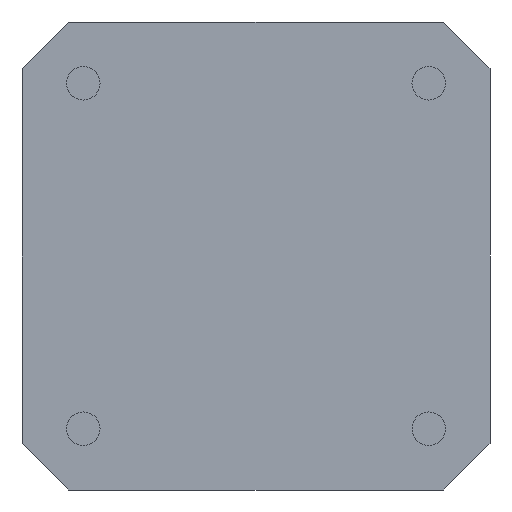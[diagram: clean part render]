
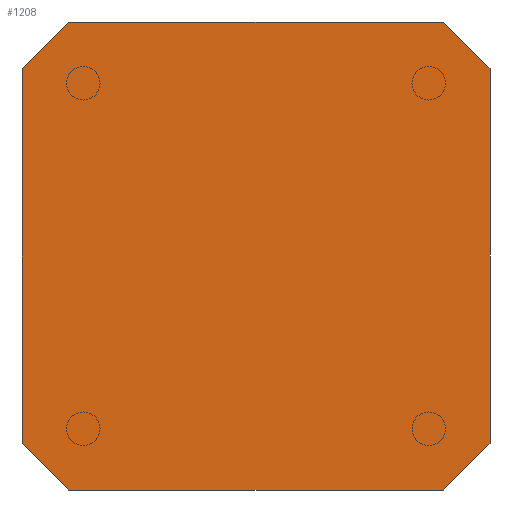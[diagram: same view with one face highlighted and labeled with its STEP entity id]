
A CAD part, front view. The second image highlights one B-rep face of the part: STEP entity #1208.
In plain terms, the highlighted planar face has unit normal (0, -1, 0).
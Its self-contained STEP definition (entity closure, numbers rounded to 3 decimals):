
#67 = LINE ( 'NONE', #1014, #1187 ) ;
#69 = DIRECTION ( 'NONE',  ( -1., 0., 0. ) ) ;
#101 = DIRECTION ( 'NONE',  ( 0., 0., -1. ) ) ;
#120 = VECTOR ( 'NONE', #520, 1000. ) ;
#121 = CARTESIAN_POINT ( 'NONE',  ( 0., -37., -42. ) ) ;
#128 = EDGE_CURVE ( 'NONE', #480, #403, #67, .T. ) ;
#185 = VERTEX_POINT ( 'NONE', #545 ) ;
#194 = CARTESIAN_POINT ( 'NONE',  ( 0., -37., -4.2 ) ) ;
#205 = CARTESIAN_POINT ( 'NONE',  ( 42., -37., -4.2 ) ) ;
#239 = EDGE_CURVE ( 'NONE', #848, #185, #799, .T. ) ;
#240 = DIRECTION ( 'NONE',  ( 0., -1., 0. ) ) ;
#247 = EDGE_CURVE ( 'NONE', #840, #403, #518, .T. ) ;
#249 = DIRECTION ( 'NONE',  ( 0., 0., -1. ) ) ;
#282 = CARTESIAN_POINT ( 'NONE',  ( 4.2, -37., 0. ) ) ;
#298 = DIRECTION ( 'NONE',  ( -0.707, 0., -0.707 ) ) ;
#314 = CARTESIAN_POINT ( 'NONE',  ( 37.8, -37., 0. ) ) ;
#373 = CARTESIAN_POINT ( 'NONE',  ( 0., -37., 0. ) ) ;
#403 = VERTEX_POINT ( 'NONE', #842 ) ;
#405 = ORIENTED_EDGE ( 'NONE', *, *, #755, .T. ) ;
#427 = CARTESIAN_POINT ( 'NONE',  ( 0., -37., 0. ) ) ;
#480 = VERTEX_POINT ( 'NONE', #1123 ) ;
#518 = LINE ( 'NONE', #121, #770 ) ;
#520 = DIRECTION ( 'NONE',  ( 0., 0., 1. ) ) ;
#521 = CARTESIAN_POINT ( 'NONE',  ( 0., -37., 0. ) ) ;
#545 = CARTESIAN_POINT ( 'NONE',  ( 42., -37., -37.8 ) ) ;
#548 = ORIENTED_EDGE ( 'NONE', *, *, #578, .T. ) ;
#550 = EDGE_LOOP ( 'NONE', ( #548, #1210, #405, #1162, #656, #1399, #857, #1030 ) ) ;
#578 = EDGE_CURVE ( 'NONE', #840, #185, #1180, .T. ) ;
#594 = CARTESIAN_POINT ( 'NONE',  ( 42., -37., 0. ) ) ;
#611 = VECTOR ( 'NONE', #921, 1000. ) ;
#656 = ORIENTED_EDGE ( 'NONE', *, *, #1252, .T. ) ;
#691 = LINE ( 'NONE', #373, #120 ) ;
#733 = DIRECTION ( 'NONE',  ( 0.707, 0., -0.707 ) ) ;
#740 = VERTEX_POINT ( 'NONE', #282 ) ;
#755 = EDGE_CURVE ( 'NONE', #848, #1053, #1009, .T. ) ;
#765 = VECTOR ( 'NONE', #298, 1000. ) ;
#770 = VECTOR ( 'NONE', #69, 1000. ) ;
#799 = LINE ( 'NONE', #594, #1337 ) ;
#809 = EDGE_CURVE ( 'NONE', #740, #1053, #1382, .T. ) ;
#840 = VERTEX_POINT ( 'NONE', #864 ) ;
#842 = CARTESIAN_POINT ( 'NONE',  ( 4.2, -37., -42. ) ) ;
#848 = VERTEX_POINT ( 'NONE', #205 ) ;
#857 = ORIENTED_EDGE ( 'NONE', *, *, #128, .T. ) ;
#864 = CARTESIAN_POINT ( 'NONE',  ( 37.8, -37., -42. ) ) ;
#917 = CARTESIAN_POINT ( 'NONE',  ( 37.8, -37., -42. ) ) ;
#921 = DIRECTION ( 'NONE',  ( 0.707, 0., 0.707 ) ) ;
#1009 = LINE ( 'NONE', #314, #1260 ) ;
#1014 = CARTESIAN_POINT ( 'NONE',  ( 4.2, -37., -42. ) ) ;
#1017 = AXIS2_PLACEMENT_3D ( 'NONE', #521, #240, #249 ) ;
#1030 = ORIENTED_EDGE ( 'NONE', *, *, #247, .F. ) ;
#1039 = LINE ( 'NONE', #194, #765 ) ;
#1053 = VERTEX_POINT ( 'NONE', #1334 ) ;
#1061 = DIRECTION ( 'NONE',  ( -0.707, 0., 0.707 ) ) ;
#1075 = VERTEX_POINT ( 'NONE', #1272 ) ;
#1093 = VECTOR ( 'NONE', #1246, 1000. ) ;
#1123 = CARTESIAN_POINT ( 'NONE',  ( 0., -37., -37.8 ) ) ;
#1162 = ORIENTED_EDGE ( 'NONE', *, *, #809, .F. ) ;
#1180 = LINE ( 'NONE', #917, #611 ) ;
#1187 = VECTOR ( 'NONE', #733, 1000. ) ;
#1208 = ADVANCED_FACE ( 'NONE', ( #1215 ), #1265, .T. ) ;
#1210 = ORIENTED_EDGE ( 'NONE', *, *, #239, .F. ) ;
#1215 = FACE_OUTER_BOUND ( 'NONE', #550, .T. ) ;
#1246 = DIRECTION ( 'NONE',  ( 1., 0., 0. ) ) ;
#1252 = EDGE_CURVE ( 'NONE', #740, #1075, #1039, .T. ) ;
#1260 = VECTOR ( 'NONE', #1061, 1000. ) ;
#1265 = PLANE ( 'NONE',  #1017 ) ;
#1272 = CARTESIAN_POINT ( 'NONE',  ( 0., -37., -4.2 ) ) ;
#1309 = EDGE_CURVE ( 'NONE', #480, #1075, #691, .T. ) ;
#1334 = CARTESIAN_POINT ( 'NONE',  ( 37.8, -37., 0. ) ) ;
#1337 = VECTOR ( 'NONE', #101, 1000. ) ;
#1382 = LINE ( 'NONE', #427, #1093 ) ;
#1399 = ORIENTED_EDGE ( 'NONE', *, *, #1309, .F. ) ;
